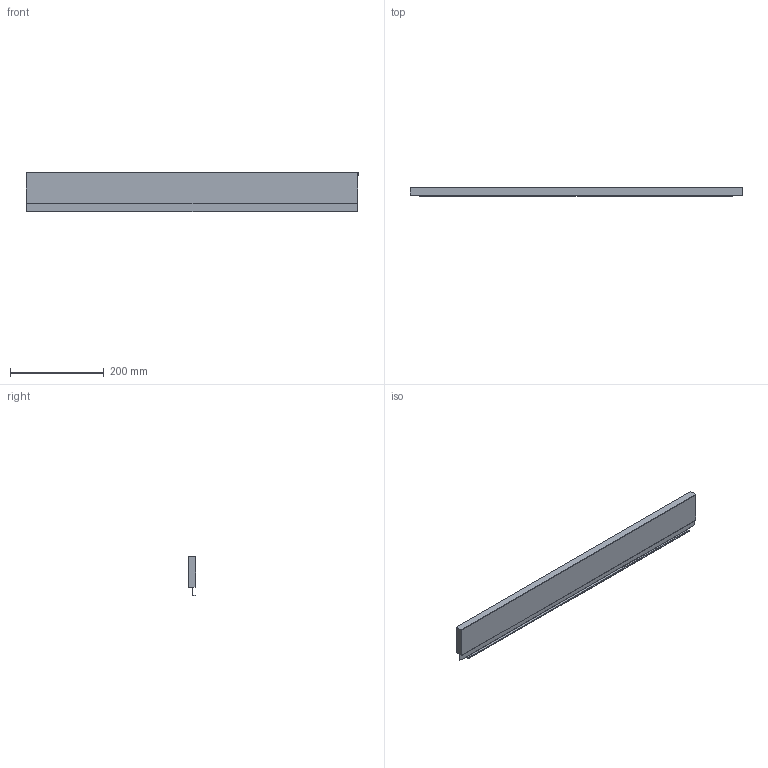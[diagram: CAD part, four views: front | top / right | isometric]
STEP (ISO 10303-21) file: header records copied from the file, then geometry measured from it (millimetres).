
FILE_DESCRIPTION (( 'STEP AP214' ), '1' );
FILE_NAME ('_STRW_H90_KAB_800.step', '2010-08-24T14:40:17', ( 'grass' ), ( '' ), 'SwSTEP 2.0', 'SolidWorks 2009', '' );
FILE_SCHEMA (( 'AUTOMOTIVE_DESIGN' ));
Length unit declared in the file: millimetre
Products named in the file (1): _STRW_H90_KAB_800
Bounding box: 710 x 17 x 85.14 mm (x, y, z)
Volume: 65399.3 mm3; surface area: 164892.2 mm2
Topology: 1 solids, 1 shells, 76 faces, 214 edges, 140 vertices
Faces by surface type: plane 54, cylinder 22
Entity records: 2472 total; most frequent: CARTESIAN_POINT 431, ORIENTED_EDGE 428, DIRECTION 412, EDGE_CURVE 214, LINE 170, VECTOR 170, VERTEX_POINT 140, AXIS2_PLACEMENT_3D 121
